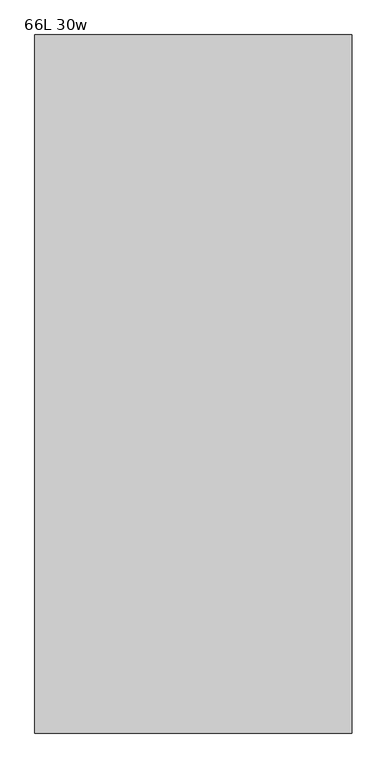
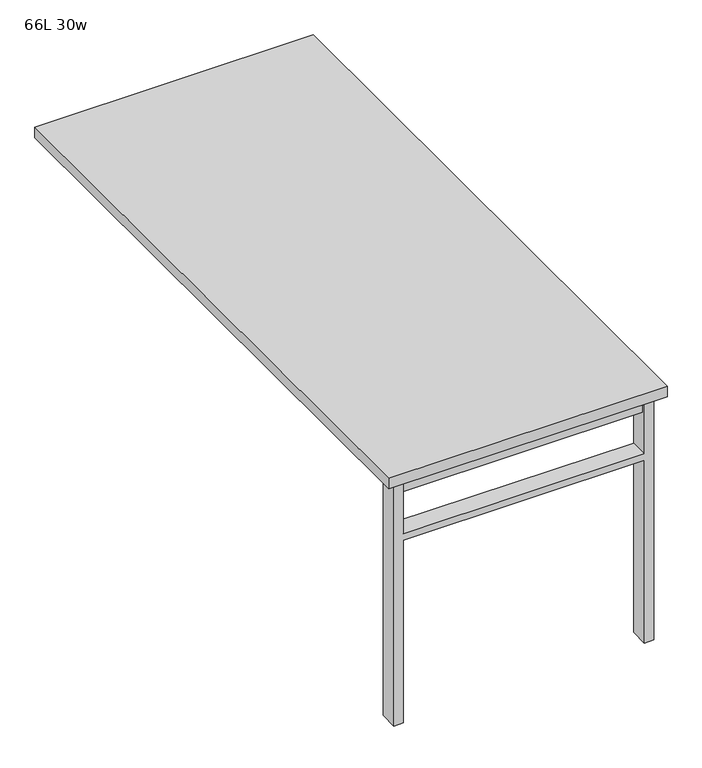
"""IFC4 building model written with IfcOpenShell, lengths in millimetres: furniture geometry, Haworth_Compose_Worksurface_RectangularConvergent : 66L 30w."""

from ifc_helpers import new_model, si_unit, frame, origin, place, context, project, spatial, polyline, outline, extrude, source, transform, mapped, element, save


def furniture_66l_30w_afd0f819(model_context):
    return source(origin(), model_context, "Body", "SweptSolid", [
        extrude(outline(polyline([(-330.2, -777.875), (330.2, -777.875), (330.2, -809.625), (-330.2, -809.625), (-330.2, -777.875)])), frame((0.0, 0.0, 661.9875), z_axis=(0.0, 0.0, 1.0), x_axis=(1.0, 0.0, 0.0)), (0.0, 0.0, 1.0), 44.45),
        extrude(outline(polyline([(528.6375, 330.2), (0.0, 330.2), (0.0, 355.6), (706.4375, 355.6), (706.4375, 330.2), (547.6875, 330.2), (547.6875, -330.2), (706.4375, -330.2), (706.4375, -355.6), (0.0, -355.6), (0.0, -330.2), (528.6375, -330.2), (528.6375, 330.2)])), frame((0.0, -819.15, 0.0), z_axis=(0.0, 1.0, 0.0), x_axis=(0.0, 0.0, 1.0)), (0.0, 0.0, 1.0), 50.8),
        extrude(outline(polyline([(-381.0, -838.2), (-381.0, 838.2), (381.0, 838.2), (381.0, -838.2), (-381.0, -838.2)])), frame((0.0, 0.0, 706.4375), z_axis=(0.0, 0.0, 1.0), x_axis=(1.0, 0.0, 0.0)), (0.0, 0.0, 1.0), 30.1625),
    ])


if __name__ == "__main__":
    model = new_model("IFC4")
    model_context = context("Model", 3, world=origin())
    ifc_project = project(units=[si_unit("LENGTHUNIT", "METRE", prefix="MILLI")], contexts=[model_context])
    site = spatial("IfcSite", under=ifc_project)
    building = spatial("IfcBuilding", under=site)
    placement = place(None, origin())
    furniture_66l_30w_shape = furniture_66l_30w_afd0f819(model_context)
    element("IfcFurniture", 1, ObjectType="Haworth_Compose_Worksurface_RectangularConvergent : 66L 30w", at=placement, inside=building, context=model_context, shape_type="MappedRepresentation", body=[
        mapped(furniture_66l_30w_shape, transform((0.0, 0.0, 0.0), x_axis=(1.0, 0.0, 0.0), y_axis=(0.0, 1.0, 0.0), z_axis=(0.0, 0.0, 1.0))),
    ])
    save(model, "model.ifc")
